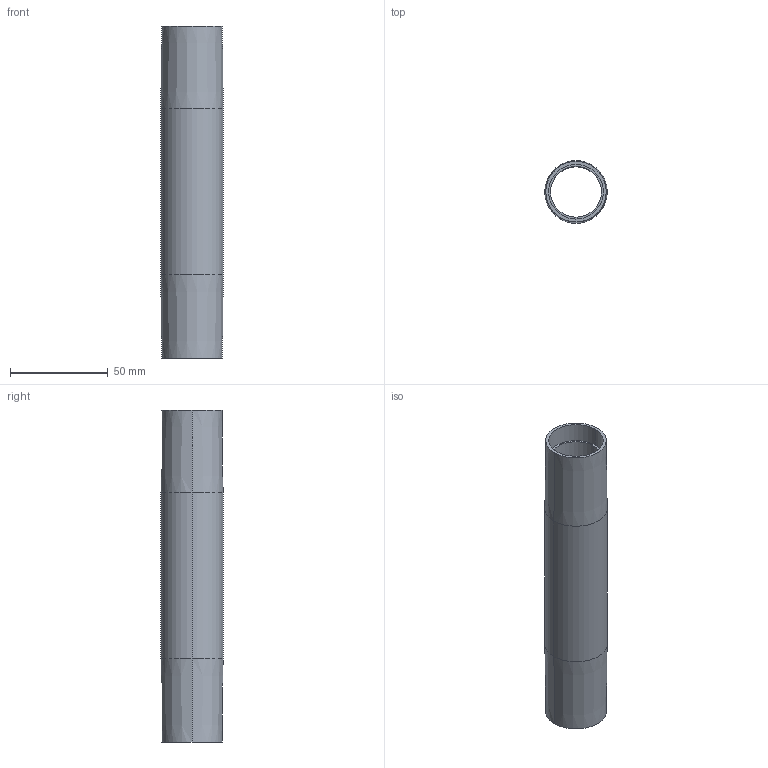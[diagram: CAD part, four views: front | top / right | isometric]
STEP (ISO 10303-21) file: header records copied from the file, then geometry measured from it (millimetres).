
FILE_DESCRIPTION (( 'STEP AP214' ), '1' );
FILE_NAME ('084.801.019.150.STEP', '2021-02-05T15:56:08', ( '' ), ( '' ), 'SwSTEP 2.0', 'SolidWorks 2018', '' );
FILE_SCHEMA (( 'AUTOMOTIVE_DESIGN' ));
Length unit declared in the file: millimetre
Products named in the file (1): 084.801.019.150
Bounding box: 32 x 32 x 170 mm (x, y, z)
Volume: 42653.7 mm3; surface area: 31416.5 mm2
Topology: 1 solids, 1 shells, 16 faces, 32 edges, 20 vertices
Faces by surface type: cylinder 8, cone 4, plane 4
Entity records: 462 total; most frequent: DIRECTION 86, CARTESIAN_POINT 69, ORIENTED_EDGE 64, AXIS2_PLACEMENT_3D 37, EDGE_CURVE 32, CIRCLE 20, VERTEX_POINT 20, EDGE_LOOP 20
